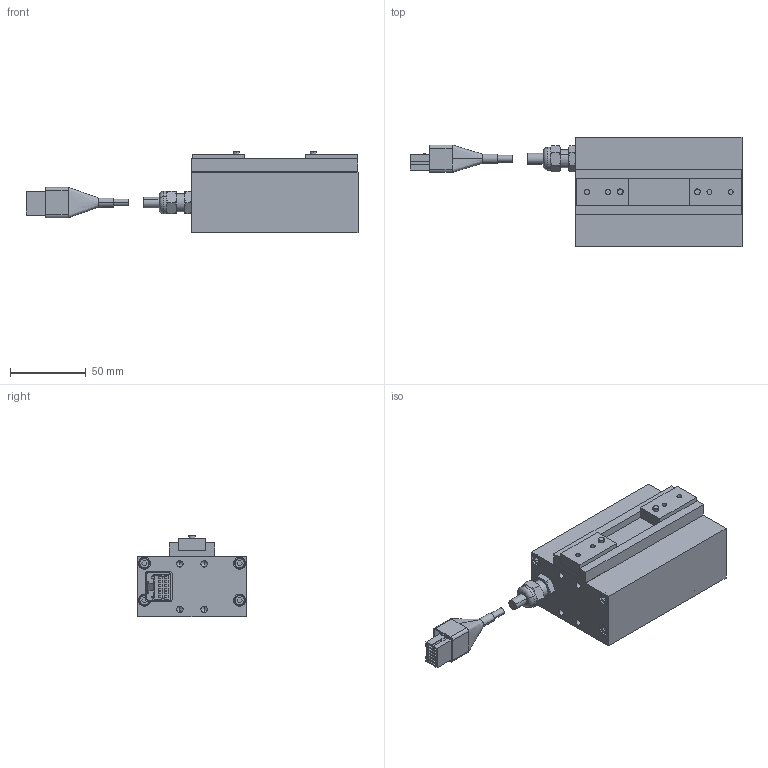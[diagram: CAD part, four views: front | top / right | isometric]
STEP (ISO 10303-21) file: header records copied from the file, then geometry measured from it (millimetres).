
FILE_DESCRIPTION (( 'STEP AP214' ), '1' );
FILE_NAME ('ESG1-FT-2840.STEP', '2009-02-12T08:16:31', ( '風音庵' ), ( '' ), 'SwSTEP 2.0', 'SolidWorks 2007', '' );
FILE_SCHEMA (( 'AUTOMOTIVE_DESIGN' ));
Length unit declared in the file: millimetre
Products named in the file (7): CONNECTOR　DK-2100D-12R_ﾃﾞﾌｫﾙﾄ; ESG1-FT-2840 BODY_蹬怮椔; ESG1-FS-2840 FINGER_蹬怮椔; CNNECTOR丂BB丂ASSY_棉太倌; CONNECTOR COVER　BB_ﾃﾞﾌｫﾙﾄ; ESG1-FT-2840; JOINT_蹬怮椔
Assembly tree (7 placements, depth 3):
  ESG1-FT-2840
    ESG1-FS-2840 FINGER_蹬怮椔  x2
    CNNECTOR丂BB丂ASSY_棉太倌
      CONNECTOR COVER　BB_ﾃﾞﾌｫﾙﾄ
      CONNECTOR　DK-2100D-12R_ﾃﾞﾌｫﾙﾄ
    ESG1-FT-2840 BODY_蹬怮椔
    JOINT_蹬怮椔
Bounding box: 219.39 x 72 x 54 mm (x, y, z)
Volume: 355294.3 mm3; surface area: 50934.1 mm2
Topology: 6 solids, 6 shells, 441 faces, 1036 edges, 650 vertices
Faces by surface type: plane 261, cylinder 100, cone 76, bspline 2, torus 2
Entity records: 17345 total; most frequent: CARTESIAN_POINT 2749, DIRECTION 2032, ORIENTED_EDGE 1956, EDGE_CURVE 978, VECTOR 686, LINE 686, AXIS2_PLACEMENT_3D 673, VERTEX_POINT 628
